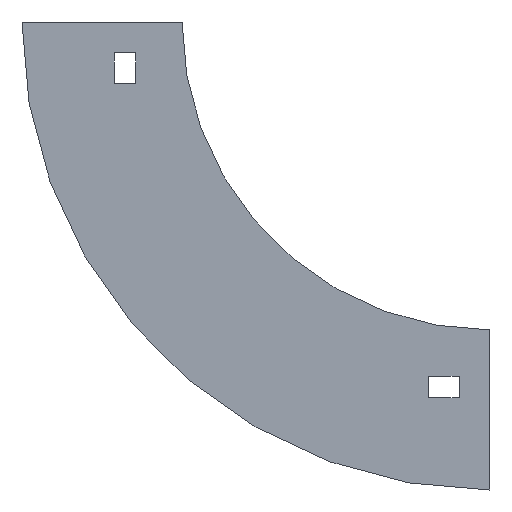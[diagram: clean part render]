
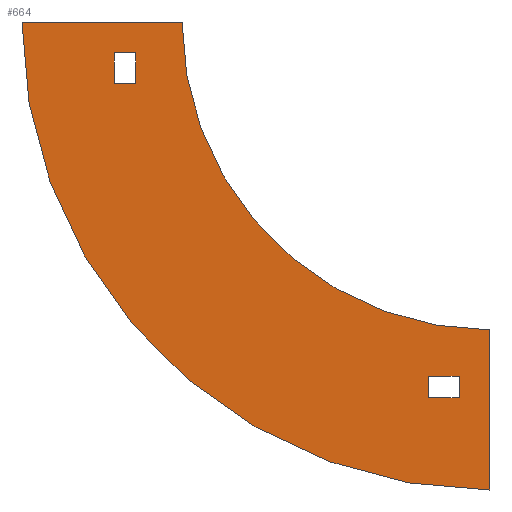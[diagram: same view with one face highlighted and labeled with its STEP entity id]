
A CAD part, left-side view. The second image highlights one B-rep face of the part: STEP entity #664.
In plain terms, the highlighted planar face has unit normal (-1, 0, 0).
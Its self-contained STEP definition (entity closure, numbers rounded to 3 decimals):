
#33 = FACE_OUTER_BOUND ( 'NONE', #142, .T. ) ;
#45 = VERTEX_POINT ( 'NONE', #777 ) ;
#54 = LINE ( 'NONE', #230, #476 ) ;
#73 = EDGE_CURVE ( 'NONE', #902, #45, #195, .T. ) ;
#88 = CARTESIAN_POINT ( 'NONE',  ( -252., -90., -115. ) ) ;
#94 = DIRECTION ( 'NONE',  ( 0., -1., 0. ) ) ;
#118 = DIRECTION ( 'NONE',  ( 0., 0., 1. ) ) ;
#122 = DIRECTION ( 'NONE',  ( 0., 0., -1. ) ) ;
#141 = CARTESIAN_POINT ( 'NONE',  ( -252., -100., -152. ) ) ;
#142 = EDGE_LOOP ( 'NONE', ( #867, #874, #235, #363 ) ) ;
#152 = VERTEX_POINT ( 'NONE', #621 ) ;
#157 = EDGE_CURVE ( 'NONE', #1068, #398, #1076, .T. ) ;
#160 = VECTOR ( 'NONE', #453, 1000. ) ;
#173 = EDGE_CURVE ( 'NONE', #1039, #902, #187, .T. ) ;
#187 = CIRCLE ( 'NONE', #419, 152. ) ;
#193 = LINE ( 'NONE', #894, #160 ) ;
#195 = LINE ( 'NONE', #319, #536 ) ;
#207 = CARTESIAN_POINT ( 'NONE',  ( -252., -100., 0. ) ) ;
#213 = VERTEX_POINT ( 'NONE', #469 ) ;
#223 = ORIENTED_EDGE ( 'NONE', *, *, #690, .T. ) ;
#224 = VERTEX_POINT ( 'NONE', #908 ) ;
#230 = CARTESIAN_POINT ( 'NONE',  ( -252., 22., -10. ) ) ;
#231 = VERTEX_POINT ( 'NONE', #732 ) ;
#235 = ORIENTED_EDGE ( 'NONE', *, *, #173, .F. ) ;
#245 = VECTOR ( 'NONE', #471, 1000. ) ;
#251 = CIRCLE ( 'NONE', #518, 100. ) ;
#262 = VECTOR ( 'NONE', #784, 1000. ) ;
#275 = LINE ( 'NONE', #535, #869 ) ;
#281 = LINE ( 'NONE', #568, #399 ) ;
#282 = LINE ( 'NONE', #994, #847 ) ;
#287 = ORIENTED_EDGE ( 'NONE', *, *, #716, .F. ) ;
#293 = EDGE_CURVE ( 'NONE', #936, #1039, #1135, .T. ) ;
#302 = DIRECTION ( 'NONE',  ( 0., 0., 1. ) ) ;
#319 = CARTESIAN_POINT ( 'NONE',  ( -252., 52., 0. ) ) ;
#352 = CARTESIAN_POINT ( 'NONE',  ( -252., -100., -100. ) ) ;
#363 = ORIENTED_EDGE ( 'NONE', *, *, #293, .F. ) ;
#368 = ORIENTED_EDGE ( 'NONE', *, *, #157, .F. ) ;
#370 = DIRECTION ( 'NONE',  ( -1., 0., 0. ) ) ;
#398 = VERTEX_POINT ( 'NONE', #638 ) ;
#399 = VECTOR ( 'NONE', #924, 1000. ) ;
#402 = EDGE_CURVE ( 'NONE', #45, #936, #251, .T. ) ;
#419 = AXIS2_PLACEMENT_3D ( 'NONE', #207, #553, #558 ) ;
#432 = EDGE_CURVE ( 'NONE', #398, #224, #281, .T. ) ;
#453 = DIRECTION ( 'NONE',  ( 0., -1., 0. ) ) ;
#469 = CARTESIAN_POINT ( 'NONE',  ( -252., -80., -115. ) ) ;
#471 = DIRECTION ( 'NONE',  ( 0., 1., 0. ) ) ;
#476 = VECTOR ( 'NONE', #118, 1000. ) ;
#479 = DIRECTION ( 'NONE',  ( 0., 0., 1. ) ) ;
#509 = ORIENTED_EDGE ( 'NONE', *, *, #654, .F. ) ;
#518 = AXIS2_PLACEMENT_3D ( 'NONE', #735, #806, #302 ) ;
#531 = LINE ( 'NONE', #88, #245 ) ;
#535 = CARTESIAN_POINT ( 'NONE',  ( -252., 15., -10. ) ) ;
#536 = VECTOR ( 'NONE', #545, 1000. ) ;
#541 = ORIENTED_EDGE ( 'NONE', *, *, #618, .T. ) ;
#545 = DIRECTION ( 'NONE',  ( 0., -1., 0. ) ) ;
#553 = DIRECTION ( 'NONE',  ( 1., 0., 0. ) ) ;
#558 = DIRECTION ( 'NONE',  ( 0., 0., 1. ) ) ;
#563 = CARTESIAN_POINT ( 'NONE',  ( -252., -80., -122. ) ) ;
#568 = CARTESIAN_POINT ( 'NONE',  ( -252., -90., -122. ) ) ;
#604 = CARTESIAN_POINT ( 'NONE',  ( -252., 52., 0. ) ) ;
#607 = EDGE_LOOP ( 'NONE', ( #645, #223, #541, #1143 ) ) ;
#618 = EDGE_CURVE ( 'NONE', #734, #231, #1134, .T. ) ;
#621 = CARTESIAN_POINT ( 'NONE',  ( -252., 15., -10. ) ) ;
#638 = CARTESIAN_POINT ( 'NONE',  ( -252., -90., -122. ) ) ;
#645 = ORIENTED_EDGE ( 'NONE', *, *, #740, .T. ) ;
#650 = VECTOR ( 'NONE', #1058, 1000. ) ;
#654 = EDGE_CURVE ( 'NONE', #224, #213, #531, .T. ) ;
#664 = ADVANCED_FACE ( 'NONE', ( #1001, #33, #1080 ), #715, .T. ) ;
#690 = EDGE_CURVE ( 'NONE', #152, #734, #275, .T. ) ;
#715 = PLANE ( 'NONE',  #981 ) ;
#716 = EDGE_CURVE ( 'NONE', #213, #1068, #282, .T. ) ;
#732 = CARTESIAN_POINT ( 'NONE',  ( -252., 22., -20. ) ) ;
#734 = VERTEX_POINT ( 'NONE', #1067 ) ;
#735 = CARTESIAN_POINT ( 'NONE',  ( -252., -100., 0. ) ) ;
#740 = EDGE_CURVE ( 'NONE', #991, #152, #193, .T. ) ;
#774 = VECTOR ( 'NONE', #94, 1000. ) ;
#777 = CARTESIAN_POINT ( 'NONE',  ( -252., 0., 0. ) ) ;
#784 = DIRECTION ( 'NONE',  ( 0., 0., -1. ) ) ;
#806 = DIRECTION ( 'NONE',  ( -1., 0., 0. ) ) ;
#828 = DIRECTION ( 'NONE',  ( 0., 0., -1. ) ) ;
#847 = VECTOR ( 'NONE', #122, 1000. ) ;
#867 = ORIENTED_EDGE ( 'NONE', *, *, #402, .F. ) ;
#869 = VECTOR ( 'NONE', #828, 1000. ) ;
#874 = ORIENTED_EDGE ( 'NONE', *, *, #73, .F. ) ;
#876 = CARTESIAN_POINT ( 'NONE',  ( -252., 22., -20. ) ) ;
#882 = EDGE_CURVE ( 'NONE', #231, #991, #54, .T. ) ;
#894 = CARTESIAN_POINT ( 'NONE',  ( -252., 22., -10. ) ) ;
#895 = CARTESIAN_POINT ( 'NONE',  ( -252., 22., -10. ) ) ;
#902 = VERTEX_POINT ( 'NONE', #604 ) ;
#908 = CARTESIAN_POINT ( 'NONE',  ( -252., -90., -115. ) ) ;
#910 = ORIENTED_EDGE ( 'NONE', *, *, #432, .F. ) ;
#924 = DIRECTION ( 'NONE',  ( 0., 0., 1. ) ) ;
#936 = VERTEX_POINT ( 'NONE', #352 ) ;
#981 = AXIS2_PLACEMENT_3D ( 'NONE', #1071, #370, #479 ) ;
#984 = CARTESIAN_POINT ( 'NONE',  ( -252., -90., -122. ) ) ;
#991 = VERTEX_POINT ( 'NONE', #895 ) ;
#994 = CARTESIAN_POINT ( 'NONE',  ( -252., -80., -122. ) ) ;
#1001 = FACE_BOUND ( 'NONE', #607, .T. ) ;
#1039 = VERTEX_POINT ( 'NONE', #141 ) ;
#1058 = DIRECTION ( 'NONE',  ( 0., 1., 0. ) ) ;
#1067 = CARTESIAN_POINT ( 'NONE',  ( -252., 15., -20. ) ) ;
#1068 = VERTEX_POINT ( 'NONE', #563 ) ;
#1071 = CARTESIAN_POINT ( 'NONE',  ( -252., -100., 0. ) ) ;
#1076 = LINE ( 'NONE', #984, #774 ) ;
#1080 = FACE_BOUND ( 'NONE', #1132, .T. ) ;
#1132 = EDGE_LOOP ( 'NONE', ( #509, #910, #368, #287 ) ) ;
#1134 = LINE ( 'NONE', #876, #650 ) ;
#1135 = LINE ( 'NONE', #1140, #262 ) ;
#1140 = CARTESIAN_POINT ( 'NONE',  ( -252., -100., -100. ) ) ;
#1143 = ORIENTED_EDGE ( 'NONE', *, *, #882, .T. ) ;
